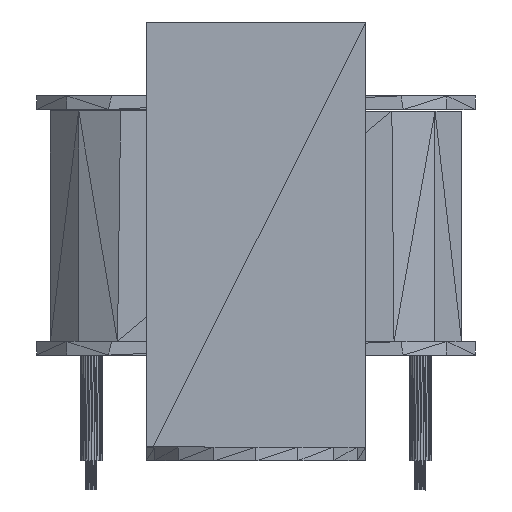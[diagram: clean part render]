
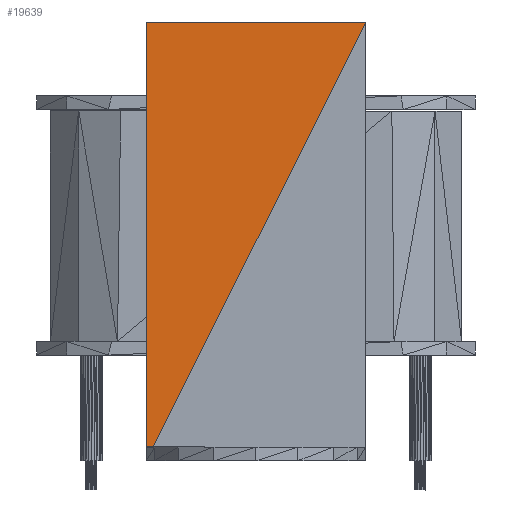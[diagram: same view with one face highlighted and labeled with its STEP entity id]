
A CAD part, left-side view. The second image highlights one B-rep face of the part: STEP entity #19639.
In plain terms, the highlighted planar face has unit normal (-1, 0, 0).
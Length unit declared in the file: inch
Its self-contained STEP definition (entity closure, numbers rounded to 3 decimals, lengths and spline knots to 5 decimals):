
#19523=CARTESIAN_POINT('',(-0.75938,0.375,0.00008));
#19524=VERTEX_POINT('',#19523);
#19576=CARTESIAN_POINT('',(-0.75938,0.3747,1.50008));
#19577=VERTEX_POINT('',#19576);
#19592=CARTESIAN_POINT('',(-0.75938,0.375,0.00008));
#19593=DIRECTION('',(0.,0.,1.));
#19594=VECTOR('',#19593,1.5);
#19595=LINE('',#19592,#19594);
#19596=EDGE_CURVE('',#19524,#19577,#19595,.T.);
#19617=CARTESIAN_POINT('',(-0.75938,-0.37531,1.49992));
#19618=DIRECTION('',(1.,0.,0.));
#19619=DIRECTION('',(0.,1.,0.));
#19620=AXIS2_PLACEMENT_3D('',#19617,#19618,#19619);
#19621=PLANE('',#19620);
#19622=CARTESIAN_POINT('',(-0.75938,-0.37531,1.49992));
#19623=VERTEX_POINT('',#19622);
#19624=CARTESIAN_POINT('',(-0.75938,-0.37531,1.49992));
#19625=DIRECTION('',(0.,1.,0.));
#19626=VECTOR('',#19625,0.75);
#19627=LINE('',#19624,#19626);
#19628=EDGE_CURVE('',#19623,#19577,#19627,.T.);
#19629=ORIENTED_EDGE('',*,*,#19628,.T.);
#19630=ORIENTED_EDGE('',*,*,#19596,.F.);
#19631=CARTESIAN_POINT('',(-0.75938,0.375,0.00008));
#19632=DIRECTION('',(0.,-0.447,0.894));
#19633=VECTOR('',#19632,1.67705);
#19634=LINE('',#19631,#19633);
#19635=EDGE_CURVE('',#19524,#19623,#19634,.T.);
#19636=ORIENTED_EDGE('',*,*,#19635,.T.);
#19637=EDGE_LOOP('',(#19629,#19630,#19636));
#19638=FACE_BOUND('',#19637,.T.);
#19639=ADVANCED_FACE('',(#19638),#19621,.F.);
